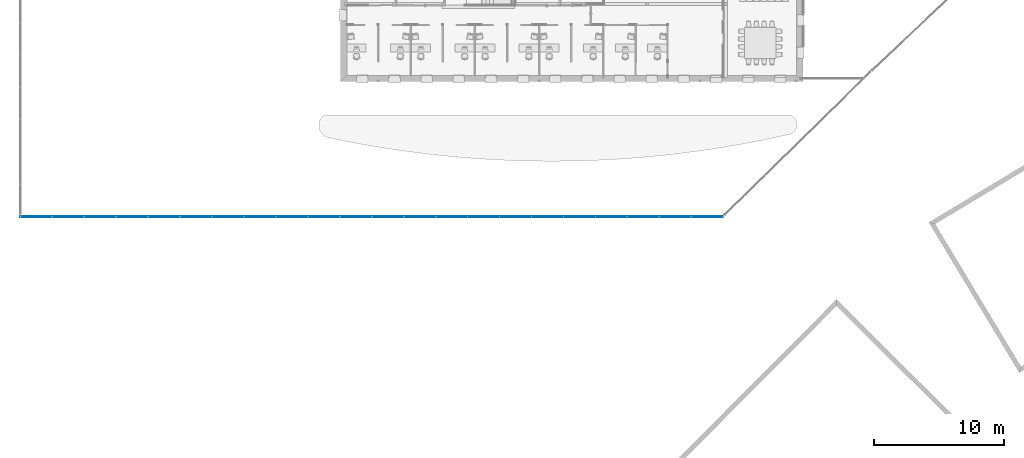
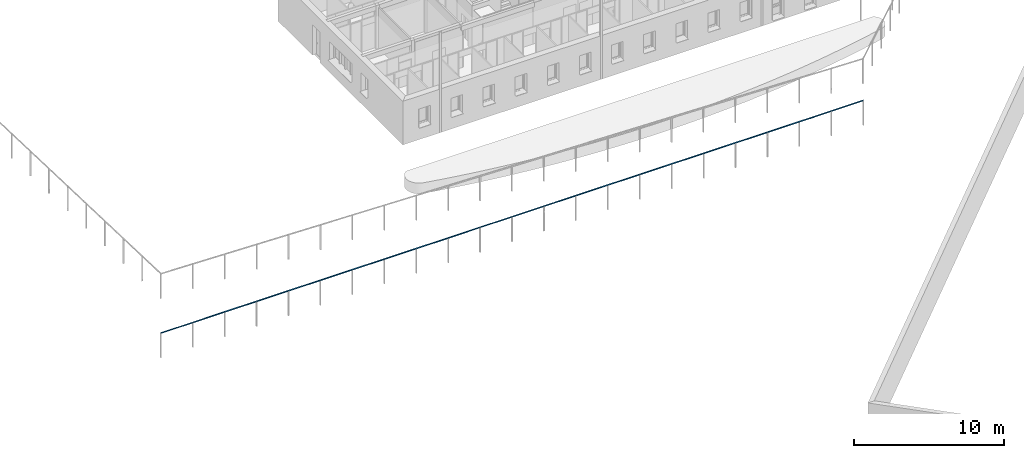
# One storey, part 50 of 91: 1 building element part, 1 element without a shape of its own.
"""IFC2X3 building model written with IfcOpenShell, lengths in metres."""

from ifc_helpers import new_model, entity, si_unit, converted_unit, derived_unit, money_unit, direction, frame, origin_with_axes, place, context, subcontext, project, spatial, faceted_brep, material, type_object, element, aggregate, save


model = new_model("IFC2X3")

# Units and contexts
model_context = context("Model", 3, precision=1e-05, world=origin_with_axes(), true_north=direction((0.0, 1.0)))
body_context = subcontext(model_context, "Body", "Model", "MODEL_VIEW")
ifc_project = project(units=[si_unit("LENGTHUNIT", "METRE"), si_unit("AREAUNIT", "SQUARE_METRE"), si_unit("VOLUMEUNIT", "CUBIC_METRE"), converted_unit("PLANEANGLEUNIT", "DEGREE", entity("IfcPlaneAngleMeasure", 0.0174532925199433), si_unit("PLANEANGLEUNIT", "RADIAN"), dimensions=[0, 0, 0, 0, 0, 0, 0]), money_unit("EUR"), converted_unit("TIMEUNIT", "Year", entity("IfcTimeMeasure", 31557600.0), si_unit("TIMEUNIT", "SECOND"), dimensions=[0, 0, 1, 0, 0, 0, 0]), si_unit("MASSUNIT", "GRAM", prefix="KILO"), si_unit("THERMODYNAMICTEMPERATUREUNIT", "DEGREE_CELSIUS"), si_unit("LUMINOUSINTENSITYUNIT", "LUMEN"), si_unit("ENERGYUNIT", "JOULE", prefix="MEGA"), derived_unit("THERMALCONDUCTANCEUNIT", [(si_unit("POWERUNIT", "WATT"), 1), (si_unit("LENGTHUNIT", "METRE"), -1), (si_unit("THERMODYNAMICTEMPERATUREUNIT", "KELVIN"), -1)]), derived_unit("SPECIFICHEATCAPACITYUNIT", [(si_unit("ENERGYUNIT", "JOULE"), 1), (si_unit("MASSUNIT", "GRAM", prefix="KILO"), -1), (si_unit("THERMODYNAMICTEMPERATUREUNIT", "KELVIN"), -1)]), derived_unit("MASSDENSITYUNIT", [(si_unit("MASSUNIT", "GRAM", prefix="KILO"), 1), (si_unit("VOLUMEUNIT", "CUBIC_METRE"), -1)])], contexts=[model_context])

# Site, building, storey
site_placement = place(None, origin_with_axes())
site = spatial("IfcSite", under=ifc_project, at=site_placement, Name="Site", CompositionType="ELEMENT")
building_placement = place(site_placement, origin_with_axes())
building = spatial("IfcBuilding", under=site, at=building_placement, Name="Bâtiment", CompositionType="ELEMENT")
storey_placement = place(building_placement, origin_with_axes())
storey = spatial("IfcBuildingStorey", under=building, at=storey_placement, Name="RDC", CompositionType="ELEMENT", Elevation=0.0)

# Proxy, building element part
building_element_proxy_type = type_object("IfcBuildingElementProxyType", Name="Type de garde-corps", PredefinedType="NOTDEFINED")
proxy_placement = place(storey_placement, frame((54.13280691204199, -37.84890533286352, -2.37161404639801), z_axis=(0.0, 0.0, 1.0), x_axis=(1.0, 0.0, 0.0)))
proxy = element("IfcBuildingElementProxy", 1, at=proxy_placement, inside=storey, type_object=building_element_proxy_type, Name="RAMPE-004")
ifc_material = material(Name="Acier Galva")
building_element_part_placement = place(proxy_placement, origin_with_axes())
building_element_part = element("IfcBuildingElementPart", 2, at=building_element_part_placement, material=ifc_material, Name="Acier Galva", context=body_context, shape_type="Brep", body=[
    faceted_brep([(0.0, 0.004999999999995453, 2.025), (0.0, 0.004999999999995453, 1.975), (-54.21328556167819, 0.004999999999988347, 1.975000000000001), (-54.21328556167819, 0.004999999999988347, 2.025), (0.0, -0.04500000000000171, 2.025), (0.0, -0.04500000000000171, 1.975), (-54.21328556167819, -0.04500000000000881, 1.975000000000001), (-54.21328556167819, -0.04500000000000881, 2.025)], [[[0, 1, 2, 3]], [[0, 4, 5, 1]], [[1, 5, 6, 2]], [[3, 2, 6, 7]], [[4, 0, 3, 7]], [[5, 4, 7, 6]]]),
])
aggregate(proxy, [building_element_part])

save(model, "model.ifc")
